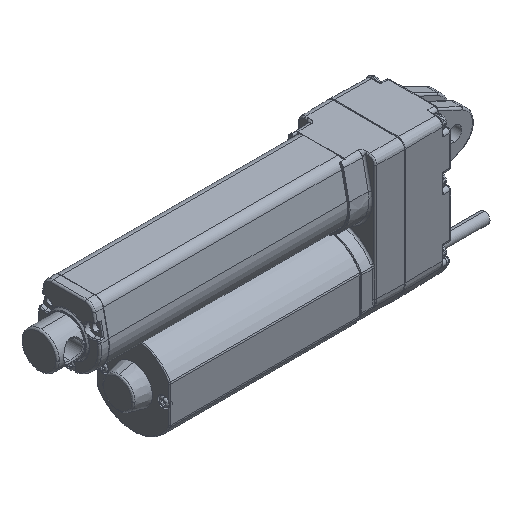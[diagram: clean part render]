
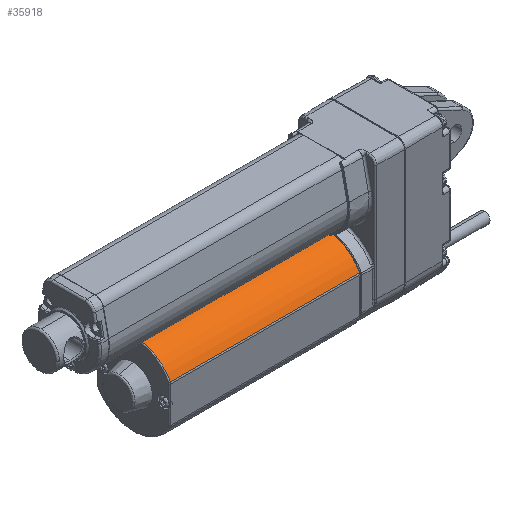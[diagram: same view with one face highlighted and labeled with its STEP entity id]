
A CAD part, isometric view. The second image highlights one B-rep face of the part: STEP entity #35918.
In plain terms, the highlighted cylindrical face has radius 22.5 mm (diameter 45 mm), a partial arc.
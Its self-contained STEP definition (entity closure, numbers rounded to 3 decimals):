
#2328 = AXIS2_PLACEMENT_3D ( 'NONE', #32989, #14575, #32598 ) ;
#3870 = DIRECTION ( 'NONE',  ( 0., -0.878, 0.479 ) ) ;
#3923 = VERTEX_POINT ( 'NONE', #30140 ) ;
#4109 = DIRECTION ( 'NONE',  ( -1., 0., 0. ) ) ;
#4447 = DIRECTION ( 'NONE',  ( 1., 0., 0. ) ) ;
#4718 = DIRECTION ( 'NONE',  ( -1., 0., 0. ) ) ;
#5254 = VERTEX_POINT ( 'NONE', #29924 ) ;
#7266 = ORIENTED_EDGE ( 'NONE', *, *, #14056, .T. ) ;
#9767 = EDGE_CURVE ( 'NONE', #5254, #14998, #26994, .T. ) ;
#10394 = CARTESIAN_POINT ( 'NONE',  ( 96.5, 20., -22. ) ) ;
#13278 = VECTOR ( 'NONE', #4109, 1000. ) ;
#13433 = DIRECTION ( 'NONE',  ( 0., 0., 1. ) ) ;
#14056 = EDGE_CURVE ( 'NONE', #3923, #14998, #24978, .T. ) ;
#14204 = AXIS2_PLACEMENT_3D ( 'NONE', #19601, #4718, #13433 ) ;
#14558 = ORIENTED_EDGE ( 'NONE', *, *, #17673, .F. ) ;
#14575 = DIRECTION ( 'NONE',  ( -1., 0., 0. ) ) ;
#14998 = VERTEX_POINT ( 'NONE', #22640 ) ;
#15457 = CARTESIAN_POINT ( 'NONE',  ( 96.5, 0.244, -11.232 ) ) ;
#15860 = DIRECTION ( 'NONE',  ( -1., 0., 0. ) ) ;
#16349 = EDGE_CURVE ( 'NONE', #18900, #5254, #19185, .T. ) ;
#17673 = EDGE_CURVE ( 'NONE', #3923, #18900, #34836, .T. ) ;
#18660 = ORIENTED_EDGE ( 'NONE', *, *, #16349, .F. ) ;
#18900 = VERTEX_POINT ( 'NONE', #15457 ) ;
#19012 = FACE_OUTER_BOUND ( 'NONE', #24786, .T. ) ;
#19185 = LINE ( 'NONE', #31254, #13278 ) ;
#19601 = CARTESIAN_POINT ( 'NONE',  ( 96.573, 20., -22. ) ) ;
#22640 = CARTESIAN_POINT ( 'NONE',  ( -7., 20., 0.5 ) ) ;
#24786 = EDGE_LOOP ( 'NONE', ( #14558, #7266, #27378, #18660 ) ) ;
#24789 = CARTESIAN_POINT ( 'NONE',  ( 96.573, 20., 0.5 ) ) ;
#24978 = LINE ( 'NONE', #24789, #29658 ) ;
#26994 = CIRCLE ( 'NONE', #2328, 22.5 ) ;
#27378 = ORIENTED_EDGE ( 'NONE', *, *, #9767, .F. ) ;
#28118 = CYLINDRICAL_SURFACE ( 'NONE', #14204, 22.5 ) ;
#29658 = VECTOR ( 'NONE', #15860, 1000. ) ;
#29924 = CARTESIAN_POINT ( 'NONE',  ( -7., 0.244, -11.232 ) ) ;
#30140 = CARTESIAN_POINT ( 'NONE',  ( 96.5, 20., 0.5 ) ) ;
#31254 = CARTESIAN_POINT ( 'NONE',  ( 93.427, 0.244, -11.232 ) ) ;
#32598 = DIRECTION ( 'NONE',  ( 0., -0.878, 0.479 ) ) ;
#32989 = CARTESIAN_POINT ( 'NONE',  ( -7., 20., -22. ) ) ;
#34836 = CIRCLE ( 'NONE', #35456, 22.5 ) ;
#35456 = AXIS2_PLACEMENT_3D ( 'NONE', #10394, #4447, #3870 ) ;
#35918 = ADVANCED_FACE ( 'NONE', ( #19012 ), #28118, .T. ) ;
